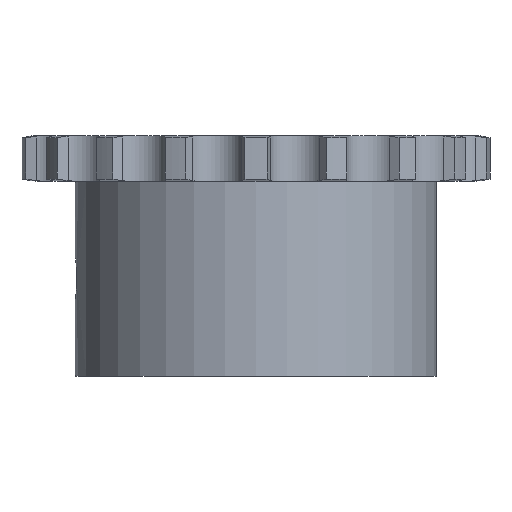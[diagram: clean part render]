
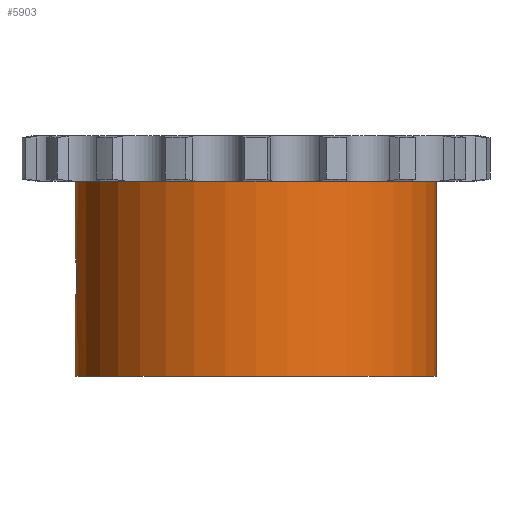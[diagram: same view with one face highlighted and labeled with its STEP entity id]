
A CAD part, front view. The second image highlights one B-rep face of the part: STEP entity #5903.
In plain terms, the highlighted cylindrical face has radius 21 mm (diameter 42 mm), a partial arc.
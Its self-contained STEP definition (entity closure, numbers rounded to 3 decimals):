
#1249=CARTESIAN_POINT('',(0.,0.,-2.65));
#1250=DIRECTION('',(0.,0.,1.));
#1251=DIRECTION('',(-1.,0.,0.));
#1252=AXIS2_PLACEMENT_3D('',#1249,#1250,#1251);
#2930=CARTESIAN_POINT('',(-21.,0.,
-11.5));
#2951=DIRECTION('',(0.,0.,1.));
#2952=VECTOR('',#2951,22.7);
#2953=CARTESIAN_POINT('',(21.,0.,-25.35));
#2954=LINE('',#2953,#2952);
#3065=CARTESIAN_POINT('',(0.,0.,-25.35));
#3066=DIRECTION('',(0.,0.,-1.));
#3067=DIRECTION('',(1.,0.,0.));
#3068=AXIS2_PLACEMENT_3D('',#3065,#3066,#3067);
#3094=CARTESIAN_POINT('',(-21.,0.,
-11.5));
#3095=CARTESIAN_POINT('',(-21.,-0.15,
-11.5));
#3096=CARTESIAN_POINT('',(-20.997,-0.446,
-11.526));
#3097=CARTESIAN_POINT('',(-20.983,-0.885,
-11.642));
#3098=CARTESIAN_POINT('',(-20.961,-1.292,
-11.83));
#3099=CARTESIAN_POINT('',(-20.935,-1.658,
-12.085));
#3100=CARTESIAN_POINT('',(-20.908,-1.974,
-12.399));
#3101=CARTESIAN_POINT('',(-20.882,-2.231,
-12.765));
#3102=CARTESIAN_POINT('',(-20.861,-2.416,
-13.166));
#3103=CARTESIAN_POINT('',(-20.848,-2.526,
-13.587));
#3104=CARTESIAN_POINT('',(-20.845,-2.549,
-13.862));
#3105=CARTESIAN_POINT('',(-20.845,-2.549,
-14.));
#3110=DIRECTION('',(0.,0.,1.));
#3111=VECTOR('',#3110,8.85);
#3112=CARTESIAN_POINT('',(-21.,0.,
-11.5));
#3113=LINE('',#3112,#3111);
#3117=DIRECTION('',(0.,0.,1.));
#3118=VECTOR('',#3117,8.85);
#3119=CARTESIAN_POINT('',(-21.,0.,-25.35));
#3120=LINE('',#3119,#3118);
#3124=CARTESIAN_POINT('',(-20.845,-2.549,
-14.));
#3125=CARTESIAN_POINT('',(-20.845,-2.549,
-14.138));
#3126=CARTESIAN_POINT('',(-20.848,-2.526,
-14.413));
#3127=CARTESIAN_POINT('',(-20.861,-2.417,
-14.832));
#3128=CARTESIAN_POINT('',(-20.881,-2.232,
-15.234));
#3129=CARTESIAN_POINT('',(-20.908,-1.975,
-15.6));
#3130=CARTESIAN_POINT('',(-20.935,-1.658,
-15.915));
#3131=CARTESIAN_POINT('',(-20.961,-1.292,
-16.17));
#3132=CARTESIAN_POINT('',(-20.983,-0.886,
-16.358));
#3133=CARTESIAN_POINT('',(-20.997,-0.446,
-16.474));
#3134=CARTESIAN_POINT('',(-21.,-0.15,
-16.5));
#3135=CARTESIAN_POINT('',(-21.,0.,
-16.5));
#3507=CARTESIAN_POINT('',(-21.,0.,-25.35));
#3508=CARTESIAN_POINT('',(21.,0.,-25.35));
#3509=VERTEX_POINT('',#3507);
#3510=VERTEX_POINT('',#3508);
#3511=CARTESIAN_POINT('',(21.,0.,-2.65));
#3512=VERTEX_POINT('',#3511);
#3513=CARTESIAN_POINT('',(-21.,0.,-2.65));
#3514=VERTEX_POINT('',#3513);
#3710=VERTEX_POINT('',#2930);
#3713=VERTEX_POINT('',#3105);
#3715=VERTEX_POINT('',#3135);
#5887=CARTESIAN_POINT('',(0.,0.,2.65));
#5888=DIRECTION('',(0.,0.,1.));
#5889=DIRECTION('',(1.,0.,0.));
#5890=AXIS2_PLACEMENT_3D('',#5887,#5888,#5889);
#5891=CYLINDRICAL_SURFACE('',#5890,21.);
#5893=ORIENTED_EDGE('',*,*,#5892,.F.);
#5894=ORIENTED_EDGE('',*,*,#5629,.T.);
#5895=ORIENTED_EDGE('',*,*,#4978,.T.);
#5896=ORIENTED_EDGE('',*,*,#5626,.F.);
#5897=ORIENTED_EDGE('',*,*,#5873,.T.);
#5898=ORIENTED_EDGE('',*,*,#5622,.T.);
#5900=ORIENTED_EDGE('',*,*,#5899,.F.);
#5901=EDGE_LOOP('',(#5893,#5894,#5895,#5896,#5897,#5898,#5900));
#5902=FACE_OUTER_BOUND('',#5901,.F.);
#5903=ADVANCED_FACE('',(#5902),#5891,.T.);
#1253=CIRCLE('',#1252,21.);
#3069=CIRCLE('',#3068,21.);
#3106=B_SPLINE_CURVE_WITH_KNOTS('',3,(#3094,#3095,#3096,#3097,#3098,#3099,#3100,
#3101,#3102,#3103,#3104,#3105),.UNSPECIFIED.,.F.,.F.,(4,1,1,1,1,1,1,1,1,4),
(0.,0.111,0.222,0.333,0.444,
0.556,0.667,0.778,0.889,1.),
.UNSPECIFIED.);
#3136=B_SPLINE_CURVE_WITH_KNOTS('',3,(#3124,#3125,#3126,#3127,#3128,#3129,#3130,
#3131,#3132,#3133,#3134,#3135),.UNSPECIFIED.,.F.,.F.,(4,1,1,1,1,1,1,1,1,4),
(0.,0.111,0.222,0.333,0.444,
0.556,0.667,0.778,0.889,1.),
.UNSPECIFIED.);
#4978=EDGE_CURVE('',#3514,#3512,#1253,.T.);
#5622=EDGE_CURVE('',#3509,#3715,#3120,.T.);
#5626=EDGE_CURVE('',#3510,#3512,#2954,.T.);
#5629=EDGE_CURVE('',#3710,#3514,#3113,.T.);
#5873=EDGE_CURVE('',#3510,#3509,#3069,.T.);
#5892=EDGE_CURVE('',#3710,#3713,#3106,.T.);
#5899=EDGE_CURVE('',#3713,#3715,#3136,.T.);
